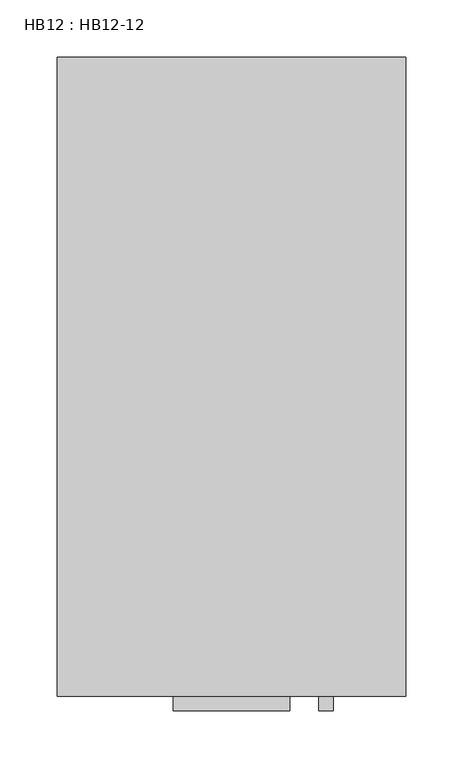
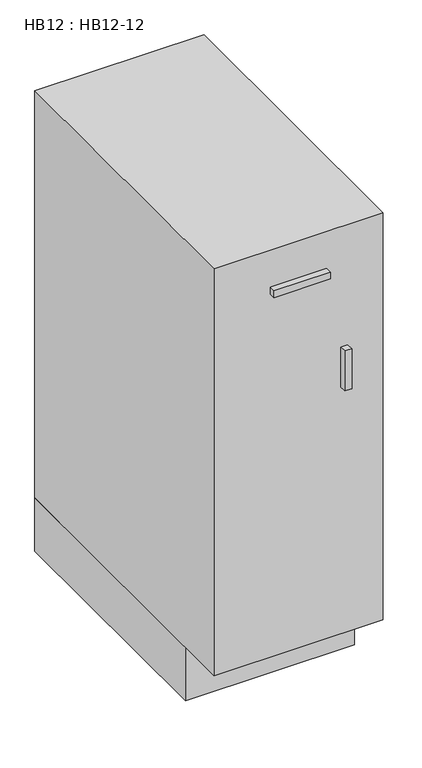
"""IFC4 building model written with IfcOpenShell, lengths in millimetres: furniture geometry, HB12 : HB12-12."""

from ifc_helpers import new_model, si_unit, frame, origin, origin_with_axes, place, context, project, spatial, polyline, outline, extrude, source, transform, mapped, element, save


def hb12_hb12_12_5a2af65d(model_context):
    return source(origin(), model_context, "Body", "SweptSolid", [
        extrude(outline(polyline([(171.1377049, 0.0), (171.1377049, -558.8), (-133.6622951, -558.8), (-133.6622951, 0.0), (171.1377049, 0.0)])), frame((0.0, 0.0, 101.6), z_axis=(0.0, 0.0, 1.0), x_axis=(1.0, 0.0, 0.0)), (0.0, 0.0, 1.0), 774.7),
        extrude(outline(polyline([(69.5377049, -571.5), (-32.0622951, -571.5), (-32.0622951, -558.8), (69.5377049, -558.8), (69.5377049, -571.5)])), frame((0.0, 0.0, 793.85), z_axis=(0.0, 0.0, 1.0), x_axis=(1.0, 0.0, 0.0)), (0.0, 0.0, 1.0), 12.6),
        extrude(outline(polyline([(107.5877049, -571.5), (94.9877049, -571.5), (94.9877049, -558.8), (107.5877049, -558.8), (107.5877049, -571.5)])), frame((0.0, 0.0, 571.5), z_axis=(0.0, 0.0, 1.0), x_axis=(1.0, 0.0, 0.0)), (0.0, 0.0, 1.0), 76.2),
        extrude(outline(polyline([(171.1377049, 0.0), (171.1377049, -469.9), (-133.6622951, -469.9), (-133.6622951, 0.0), (171.1377049, 0.0)])), origin_with_axes(), (0.0, 0.0, 1.0), 101.6),
    ])


if __name__ == "__main__":
    model = new_model("IFC4")
    model_context = context("Model", 3, world=origin())
    ifc_project = project(units=[si_unit("LENGTHUNIT", "METRE", prefix="MILLI")], contexts=[model_context])
    site = spatial("IfcSite", under=ifc_project)
    building = spatial("IfcBuilding", under=site)
    placement = place(None, origin())
    hb12_hb12_12_shape = hb12_hb12_12_5a2af65d(model_context)
    element("IfcFurniture", 1, ObjectType="HB12 : HB12-12", at=placement, inside=building, context=model_context, shape_type="MappedRepresentation", body=[
        mapped(hb12_hb12_12_shape, transform((0.0, 0.0, 0.0), x_axis=(1.0, 0.0, 0.0), y_axis=(0.0, 1.0, 0.0), z_axis=(0.0, 0.0, 1.0))),
    ])
    save(model, "model.ifc")
